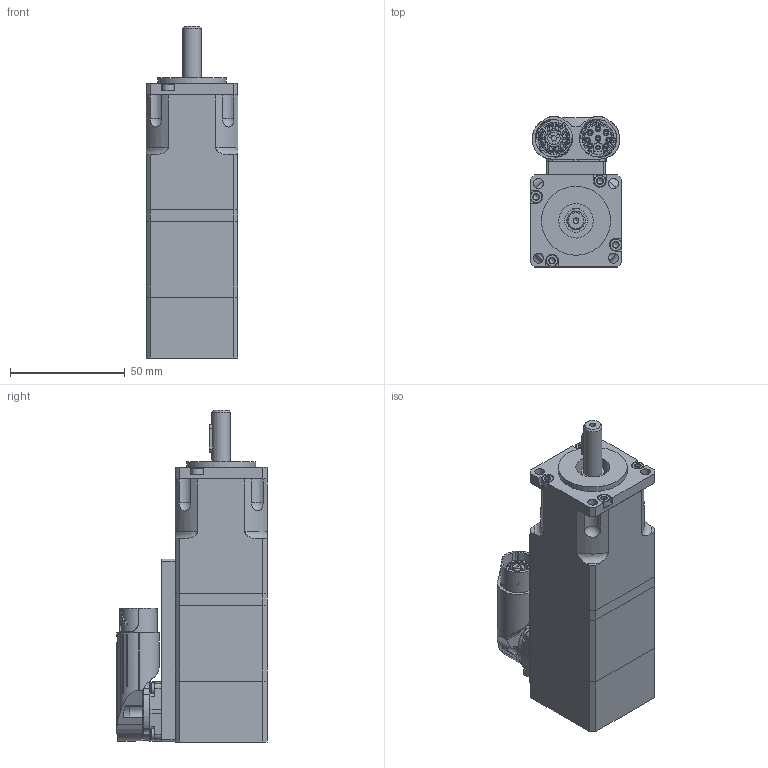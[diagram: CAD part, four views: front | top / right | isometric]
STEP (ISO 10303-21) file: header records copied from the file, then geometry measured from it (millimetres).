
FILE_DESCRIPTION(/* description */ (''),/* implementation_level */ '2;1');
FILE_NAME(/* name */ 'C:\Users\Public\Documents\Autodesk\Inventor LT 2014\Workspace\Motori Sito WEB\TG_0\STEP TG_0\DSM5_04_x19D.stp',/* time_stamp */ '2021-03-31T14:05:24+02:00',/* author */ ('marcor'),/* organization */ (''),/* preprocessor_version */ 'ST-DEVELOPER v15.2',/* originating_system */ 'Autodesk Inventor LT ',/* authorisation */ '');
FILE_SCHEMA (('AUTOMOTIVE_DESIGN { 1 0 10303 214 3 1 1 }'));
Length unit declared in the file: millimetre
Products named in the file (1): DSM5_04_x19D
Bounding box: 40 x 65.4 x 144.5 mm (x, y, z)
Volume: 145604.7 mm3; surface area: 54293.8 mm2
Topology: 25 solids, 26 shells, 1060 faces, 2661 edges, 1744 vertices
Faces by surface type: plane 443, cylinder 389, cone 119, torus 84, sphere 25
Full cylindrical faces by diameter (mm): 1.075 x12, 1.15 x7, 1.7 x5, 2.013 x6, 2.05 x1, 2.224 x6, 2.3 x1, 2.45 x4, 2.459 x11, 2.5 x6, 2.55 x3, 2.7 x4, 2.88 x6, 3 x14, 3.2 x10, 3.5 x2, 4 x2, 4.3 x4, 4.8 x2, 5 x2, 5.3 x4, 5.45 x1, 5.5 x6, 6 x6, 7.5 x1, 8 x2, 10 x1, 11 x1, 11.75 x1, 11.8 x1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
Entity records: 32611 total; most frequent: CARTESIAN_POINT 8389, DIRECTION 4772, ORIENTED_EDGE 4522, EDGE_CURVE 2261, AXIS2_PLACEMENT_3D 1943, VERTEX_POINT 1627, EDGE_LOOP 1478, ADVANCED_FACE 1059
